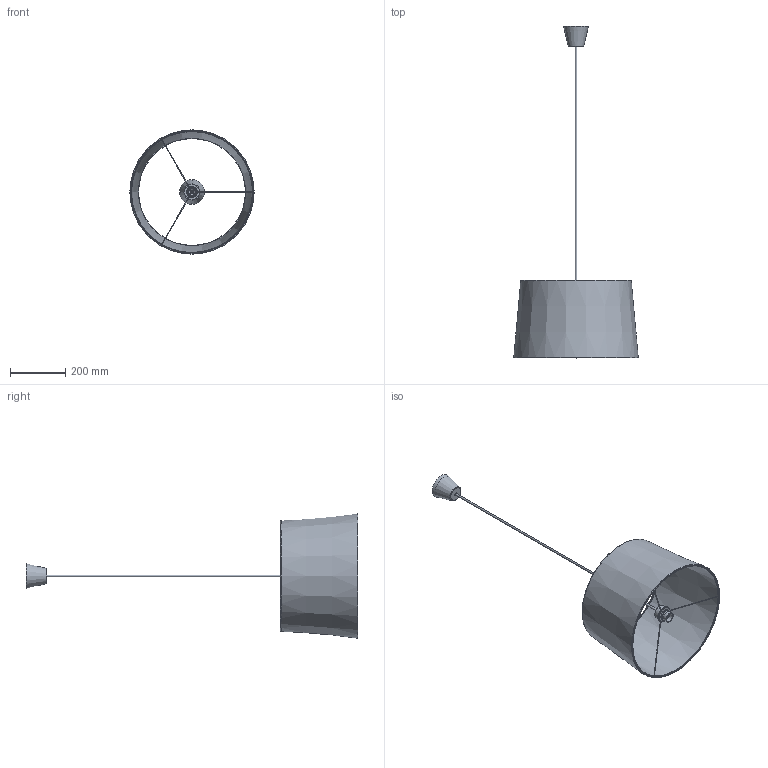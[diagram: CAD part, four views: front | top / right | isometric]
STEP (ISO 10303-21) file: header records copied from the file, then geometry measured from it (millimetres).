
FILE_DESCRIPTION(/* description */ (''),/* implementation_level */ '2;1');
FILE_NAME(/* name */ 'C:/Users/kubaw/OneDrive/Pulpit/Nowy folder/1883_MAJA/1883_MAJA v4.step',/* time_stamp */ '2021-03-13T09:33:56+01:00',/* author */ (''),/* organization */ (''),/* preprocessor_version */ 'ST-DEVELOPER v18.1',/* originating_system */ 'Autodesk Translation Framework v9.10.0.1330',/* authorisation */ '');
FILE_SCHEMA (('AUTOMOTIVE_DESIGN { 1 0 10303 214 3 1 1 }'));
Length unit declared in the file: millimetre
Products named in the file (2): 1883_MAJA; MOCOWANIE_MAJA
Assembly tree (1 placements, depth 2):
  1883_MAJA
    MOCOWANIE_MAJA
Bounding box: 449.71 x 1200 x 449.71 mm (x, y, z)
Volume: 2113953.8 mm3; surface area: 863606.4 mm2
Topology: 12 solids, 12 shells, 64 faces, 102 edges, 67 vertices
Faces by surface type: plane 29, cylinder 17, torus 12, cone 4, bspline 2
Full cylindrical faces by diameter (mm): 2 x6, 7 x1, 8 x1, 31 x1, 36 x1, 37 x1, 40 x1, 50 x1, 56 x1, 58 x1, 79.731 x1, 386 x1
Entity records: 2277 total; most frequent: CARTESIAN_POINT 971, DIRECTION 301, ORIENTED_EDGE 204, AXIS2_PLACEMENT_3D 140, EDGE_CURVE 102, EDGE_LOOP 75, CIRCLE 75, VERTEX_POINT 67
